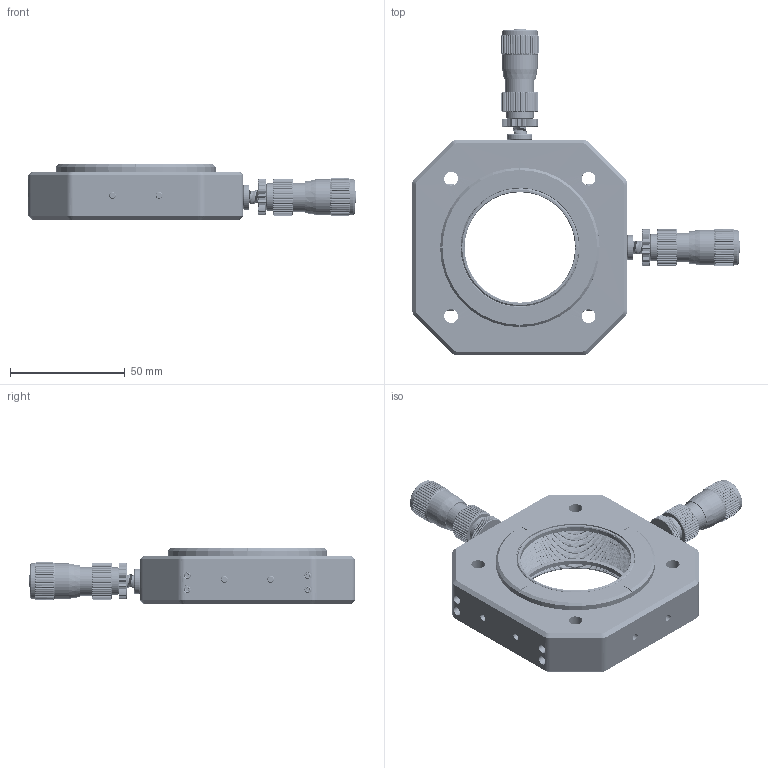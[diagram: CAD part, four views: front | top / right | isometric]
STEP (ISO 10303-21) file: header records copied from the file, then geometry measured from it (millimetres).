
FILE_DESCRIPTION((''),'2;1');
FILE_NAME('CXY2-STEP_ASM','2026-03-23T15:39:44',('R&D'),(''),'CREO PARAMETRIC BY PTC INC, 2021063','CREO PARAMETRIC BY PTC INC, 2021063','');
FILE_SCHEMA(('CONFIG_CONTROL_DESIGN'));
Products named in the file (44): 21197-005-3-SOLID1; 21197-001-2-SOLID1; SS4S031-1-4-SOLID1; SS4S031-1-2-SOLID1; 21197-003-3-SOLID1; 8683A67-4-SOLID1; SS4S031-1-5-SOLID1; SS4S031-1-7-SOLID1; 8683A67-1-SOLID1; 21197-002-3-SOLID1; SS4S031-1-1-SOLID1; 0029-001-1-SOLID1; SS4S031-1-8-SOLID1; SS4S031-1-3-SOLID1; SS4S031-1-6-SOLID1; 21197-E0W_ASM; M3X5_HSB; 21197-008-4-SOLID1; AXLE_3X13; W25H042-3; PLS-G25_A4; 21197-008-3-SOLID1; TH; SM13_ASM; PSM25-B-A2; PSM25-B-A3; PSM25-B-A4; PSM25-B-A5; PSM25-B-A7; PSM25-B-A8; PSM25-B-A9; PSM25-B-B1; PSM25-B-B2; PSM25-B-B3; PSM25-B-A1; PSM25-B-A6_ASM; PSM25-B-B4; PSM25-B-B5; PSM25-B-B6; PSM25-B_ASM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
Assembly tree (68 placements, depth 5):
  CXY2-STEP_ASM
    21197-E0W_ASM
      21197-005-3-SOLID1
      21197-001-2-SOLID1
      SS4S031-1-4-SOLID1
      SS4S031-1-2-SOLID1
      21197-003-3-SOLID1
      8683A67-4-SOLID1
      SS4S031-1-5-SOLID1
      SS4S031-1-7-SOLID1
      8683A67-1-SOLID1
      21197-002-3-SOLID1
      SS4S031-1-1-SOLID1
      0029-001-1-SOLID1
      SS4S031-1-8-SOLID1
      SS4S031-1-3-SOLID1
      SS4S031-1-6-SOLID1
    M3X5_HSB  x8
    21197-008-4-SOLID1  x2
    AXLE_3X13  x8
    W25H042-3  x2
    PLS-G25_A4  x2
    21197-008-3-SOLID1  x2
    TH  x4
    SM13_ASM  x2
    PSM8A_ASM  x2
      PSM25-B_ASM
        PSM25-B-A2
        PSM25-B-A3
        PSM25-B-A4
        PSM25-B-A5
        PSM25-B-A7
        PSM25-B-A8
        PSM25-B-A9
        PSM25-B-B1
        PSM25-B-A6_ASM
          PSM25-B-B2
          PSM25-B-B3
          PSM25-B-A1
        PSM25-B-B4
        PSM25-B-B5
        PSM25-B-B6
    M3X4_HS  x2
    18988-001-1-SOLID1_PM  x2
Bounding box: 143.02 x 142.42 x 24.13 mm (x, y, z)
Volume: 119138.8 mm3; surface area: 86107.8 mm2
Topology: 65 solids, 65 shells, 4219 faces, 11344 edges, 7341 vertices
Faces by surface type: cylinder 2152, plane 977, bspline 765, cone 291, sphere 26, torus 8
Entity records: 209146 total; most frequent: CARTESIAN_POINT 145654, ORIENTED_EDGE 15138, DIRECTION 9760, EDGE_CURVE 7569, VERTEX_POINT 4910, B_SPLINE_CURVE_WITH_KNOTS 3713, AXIS2_PLACEMENT_3D 3570, EDGE_LOOP 2977
